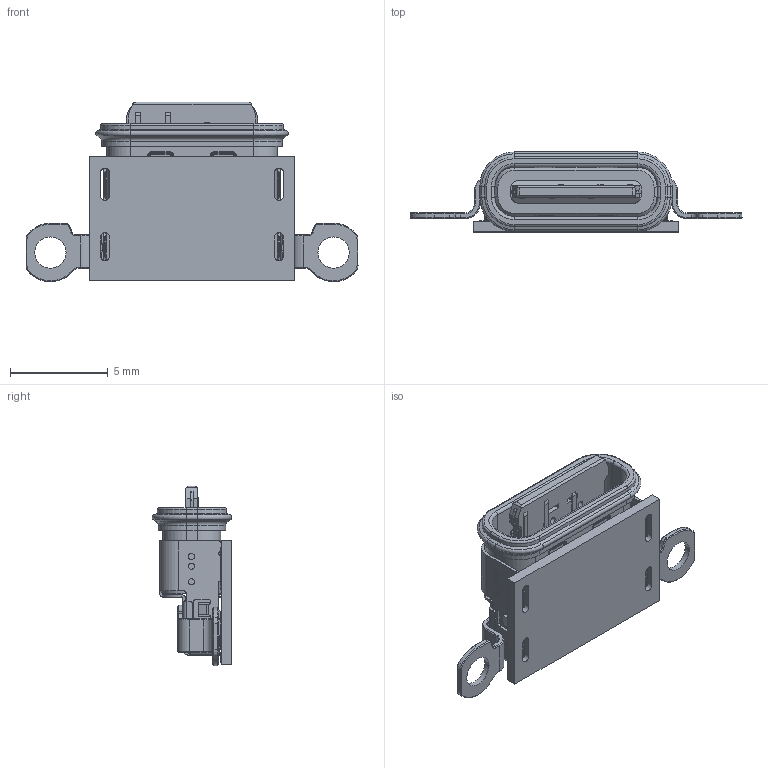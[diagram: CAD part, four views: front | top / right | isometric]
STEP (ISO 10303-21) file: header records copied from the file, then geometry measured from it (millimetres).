
FILE_DESCRIPTION(('Creo Elements/Direct Modeling STEP Export'),'2;1');
FILE_NAME('0.stp','2026-01-06T10:03:32',(''),(''),'PTC Creo Elements/Direct Modeling STEP processor for AP214 (Solid Model)','PTC Creo Elements/Direct Modeling 19.0 09-May-2014 (C) Parametric Technology GmbH','');
FILE_SCHEMA(('AUTOMOTIVE_DESIGN { 1 0 10303 214 1 1 1 1 }'));
Length unit declared in the file: millimetre
Products named in the file (5): 外壳.1; 6P_5V2A20251011_ASM; PCB; TYPE_6P防水-3D-2025-11-26.stp
Assembly tree (4 placements, depth 4):
  TYPE_6P防水-3D-2025-11-26.stp
    TYPE_6P防水-3D-2025-11-26.stp
      PCB
      6P_5V2A20251011_ASM
        外壳.1
Bounding box: 17 x 4.08 x 9.2 mm (x, y, z)
Volume: 154.2 mm3; surface area: 836.8 mm2
Topology: 2 solids, 8 shells, 1619 faces, 4359 edges, 2812 vertices
Faces by surface type: plane 1053, cylinder 391, cone 82, torus 64, sphere 16, bspline 10, extrusion 3
Entity records: 50439 total; most frequent: CARTESIAN_POINT 9917, ORIENTED_EDGE 8718, DIRECTION 8023, EDGE_CURVE 4359, VECTOR 3233, LINE 3230, VERTEX_POINT 2812, AXIS2_PLACEMENT_3D 2395
